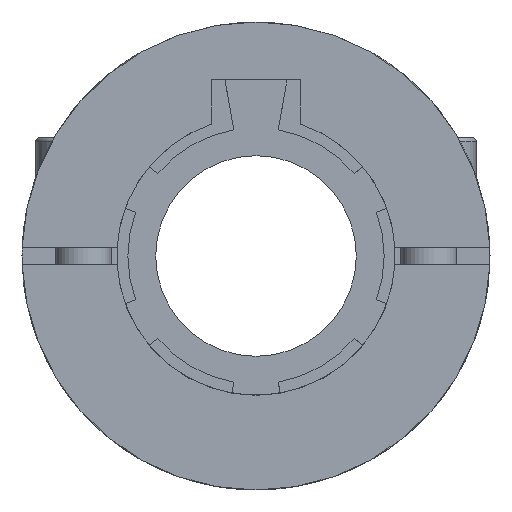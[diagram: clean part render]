
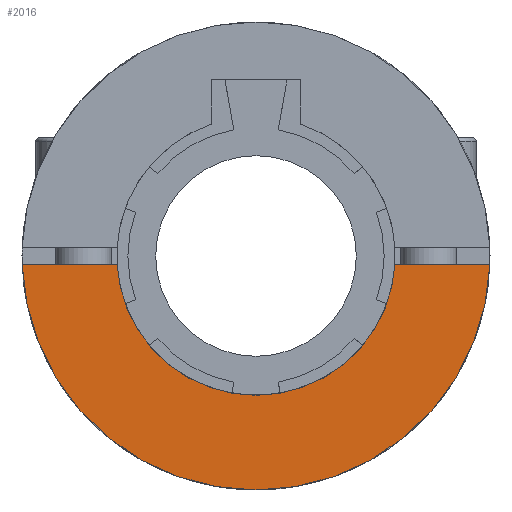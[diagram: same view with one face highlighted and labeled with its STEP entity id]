
A CAD part, left-side view. The second image highlights one B-rep face of the part: STEP entity #2016.
In plain terms, the highlighted planar face has unit normal (-1, 0, 0) as drawn and (1, 0, 0) by its records, which use the part's own axes.
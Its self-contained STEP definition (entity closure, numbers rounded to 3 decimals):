
#76=PLANE('',#2241);
#201=FACE_OUTER_BOUND('',#319,.T.);
#319=EDGE_LOOP('',(#1616,#1617,#1618,#1619));
#471=LINE('',#3253,#650);
#475=LINE('',#3266,#654);
#650=VECTOR('',#2621,10.);
#654=VECTOR('',#2631,10.);
#801=CIRCLE('',#2237,12.5);
#803=CIRCLE('',#2240,21.);
#945=VERTEX_POINT('',#3250);
#946=VERTEX_POINT('',#3252);
#951=VERTEX_POINT('',#3263);
#952=VERTEX_POINT('',#3265);
#1185=EDGE_CURVE('',#946,#945,#471,.T.);
#1191=EDGE_CURVE('',#952,#951,#475,.T.);
#1196=EDGE_CURVE('',#951,#946,#801,.T.);
#1198=EDGE_CURVE('',#945,#952,#803,.T.);
#1616=ORIENTED_EDGE('',*,*,#1198,.T.);
#1617=ORIENTED_EDGE('',*,*,#1191,.T.);
#1618=ORIENTED_EDGE('',*,*,#1196,.T.);
#1619=ORIENTED_EDGE('',*,*,#1185,.T.);
#2016=ADVANCED_FACE('',(#201),#76,.T.);
#2237=AXIS2_PLACEMENT_3D('',#3274,#2641,#2642);
#2240=AXIS2_PLACEMENT_3D('',#3277,#2647,#2648);
#2241=AXIS2_PLACEMENT_3D('',#3359,#2649,#2650);
#2621=DIRECTION('',(0.,-1.,0.));
#2631=DIRECTION('',(0.,-1.,0.));
#2641=DIRECTION('center_axis',(-1.,0.,0.));
#2642=DIRECTION('ref_axis',(0.,0.998,0.064));
#2647=DIRECTION('center_axis',(1.,0.,0.));
#2648=DIRECTION('ref_axis',(0.,-0.94,0.342));
#2649=DIRECTION('center_axis',(1.,0.,0.));
#2650=DIRECTION('ref_axis',(0.,0.,-1.));
#3250=CARTESIAN_POINT('',(66.,-20.985,-0.8));
#3252=CARTESIAN_POINT('',(66.,-12.474,-0.8));
#3253=CARTESIAN_POINT('',(66.,-12.474,-0.8));
#3263=CARTESIAN_POINT('',(66.,12.474,-0.8));
#3265=CARTESIAN_POINT('',(66.,20.985,-0.8));
#3266=CARTESIAN_POINT('',(66.,20.985,-0.8));
#3274=CARTESIAN_POINT('Origin',(66.,0.,0.));
#3277=CARTESIAN_POINT('Origin',(66.,0.,0.));
#3359=CARTESIAN_POINT('Origin',(66.,0.,-9.712));
